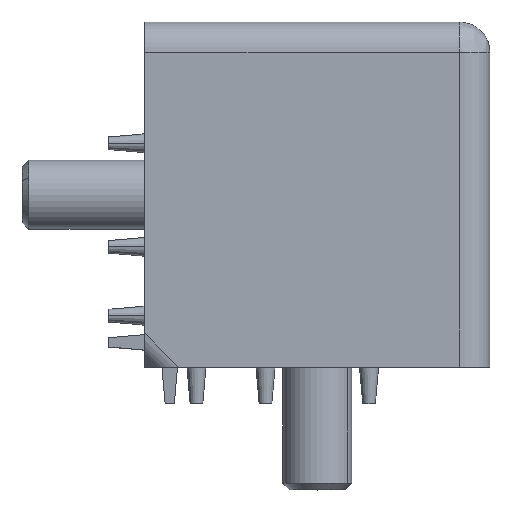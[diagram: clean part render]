
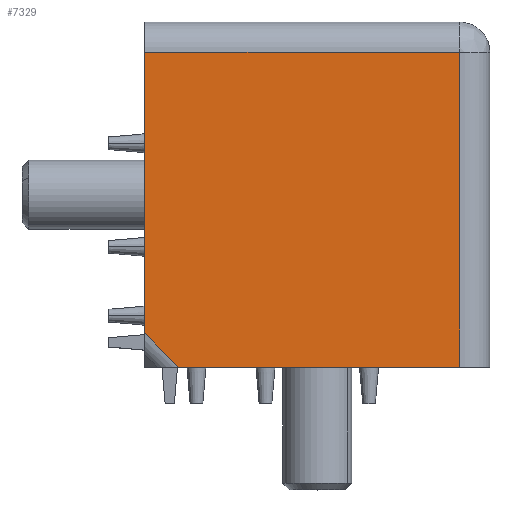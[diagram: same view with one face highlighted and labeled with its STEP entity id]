
A CAD part, top view. The second image highlights one B-rep face of the part: STEP entity #7329.
In plain terms, the highlighted planar face has unit normal (0, 0, 1) as drawn and (0, -1, 0) by its records, which use the part's own axes.
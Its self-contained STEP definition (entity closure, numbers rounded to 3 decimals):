
#479 = CARTESIAN_POINT ( 'NONE',  ( 40., 0., 36.04 ) ) ;
#833 = CARTESIAN_POINT ( 'NONE',  ( 3.5, 0., 3.5 ) ) ;
#895 = LINE ( 'NONE', #8810, #4739 ) ;
#943 = ORIENTED_EDGE ( 'NONE', *, *, #3686, .F. ) ;
#1350 = CARTESIAN_POINT ( 'NONE',  ( 40., 0., 3.5 ) ) ;
#1487 = DIRECTION ( 'NONE',  ( 0., 0., 1. ) ) ;
#1770 = VECTOR ( 'NONE', #1487, 1000. ) ;
#2126 = EDGE_CURVE ( 'NONE', #8079, #8895, #895, .T. ) ;
#2161 = CARTESIAN_POINT ( 'NONE',  ( 3.5, 0., 40. ) ) ;
#2210 = CARTESIAN_POINT ( 'NONE',  ( 3.5, 0., 40. ) ) ;
#2243 = VECTOR ( 'NONE', #3884, 1000. ) ;
#2528 = LINE ( 'NONE', #2721, #6106 ) ;
#2721 = CARTESIAN_POINT ( 'NONE',  ( 36.04, 0., 40. ) ) ;
#2899 = FACE_OUTER_BOUND ( 'NONE', #8222, .T. ) ;
#3184 = ORIENTED_EDGE ( 'NONE', *, *, #4012, .F. ) ;
#3303 = CARTESIAN_POINT ( 'NONE',  ( 0., 0., 3.5 ) ) ;
#3686 = EDGE_CURVE ( 'NONE', #4771, #9203, #7931, .T. ) ;
#3810 = CARTESIAN_POINT ( 'NONE',  ( 36.04, 0., 40. ) ) ;
#3884 = DIRECTION ( 'NONE',  ( 1., 0., 0. ) ) ;
#4012 = EDGE_CURVE ( 'NONE', #5598, #4771, #5607, .T. ) ;
#4084 = PLANE ( 'NONE',  #8844 ) ;
#4334 = DIRECTION ( 'NONE',  ( 0., 0., 1. ) ) ;
#4739 = VECTOR ( 'NONE', #8747, 1000. ) ;
#4771 = VERTEX_POINT ( 'NONE', #2161 ) ;
#5598 = VERTEX_POINT ( 'NONE', #833 ) ;
#5607 = LINE ( 'NONE', #2210, #1770 ) ;
#5846 = EDGE_CURVE ( 'NONE', #8079, #5598, #8669, .T. ) ;
#6056 = CARTESIAN_POINT ( 'NONE',  ( 0., 0., 40. ) ) ;
#6106 = VECTOR ( 'NONE', #7707, 1000. ) ;
#7146 = CARTESIAN_POINT ( 'NONE',  ( 0., 0., 40. ) ) ;
#7270 = ORIENTED_EDGE ( 'NONE', *, *, #5846, .F. ) ;
#7329 = ADVANCED_FACE ( 'NONE', ( #2899 ), #4084, .F. ) ;
#7707 = DIRECTION ( 'NONE',  ( 0.707, 0., -0.707 ) ) ;
#7931 = LINE ( 'NONE', #6056, #2243 ) ;
#8079 = VERTEX_POINT ( 'NONE', #1350 ) ;
#8222 = EDGE_LOOP ( 'NONE', ( #943, #3184, #7270, #8239, #8736 ) ) ;
#8239 = ORIENTED_EDGE ( 'NONE', *, *, #2126, .T. ) ;
#8257 = DIRECTION ( 'NONE',  ( -1., 0., 0. ) ) ;
#8591 = DIRECTION ( 'NONE',  ( 0., 1., 0. ) ) ;
#8602 = EDGE_CURVE ( 'NONE', #9203, #8895, #2528, .T. ) ;
#8669 = LINE ( 'NONE', #3303, #8897 ) ;
#8736 = ORIENTED_EDGE ( 'NONE', *, *, #8602, .F. ) ;
#8747 = DIRECTION ( 'NONE',  ( 0., 0., 1. ) ) ;
#8810 = CARTESIAN_POINT ( 'NONE',  ( 40., 0., 40. ) ) ;
#8844 = AXIS2_PLACEMENT_3D ( 'NONE', #7146, #8591, #4334 ) ;
#8895 = VERTEX_POINT ( 'NONE', #479 ) ;
#8897 = VECTOR ( 'NONE', #8257, 1000. ) ;
#9203 = VERTEX_POINT ( 'NONE', #3810 ) ;
